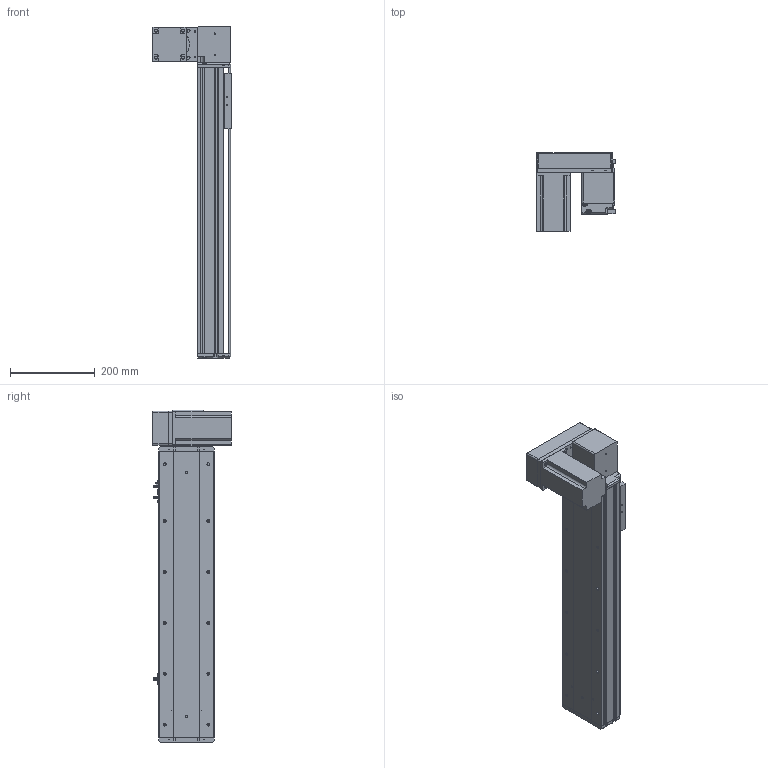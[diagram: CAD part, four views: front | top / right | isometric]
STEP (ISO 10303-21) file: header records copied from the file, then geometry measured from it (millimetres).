
FILE_DESCRIPTION (( 'STEP AP214' ), '1' );
FILE_NAME ('KSD130B-S450-MRD-CM .STEP', '2019-11-15T08:24:11', ( '微软用户' ), ( '微软中国' ), 'SwSTEP 2.0', 'SolidWorks 2014', '' );
FILE_SCHEMA (( 'AUTOMOTIVE_DESIGN' ));
Length unit declared in the file: millimetre
Products named in the file (12): 130宽模组保护罩上下左右折-同步带; 台达ECMA－C20807AS伺服电机; 130宽模组马达安装板连板上下折丝杆同步带; 覜茼え100遵圉猾敕; U倰嫖萇EEㄜSX672; 130宽盖板半封闭同步带-450行程; 130宽马达安装板同步带右-改镜向_默认<按加工>; 130宽马达安装板同步带半封闭; 130宽同步带安装座半封闭; 130宽端盖同步带半封闭; 130宽底板半封闭同步带-450行程; KSD130B-S450-MRD-CM 
Assembly tree (13 placements, depth 2):
  KSD130B-S450-MRD-CM 
    130宽底板半封闭同步带-450行程
    130宽端盖同步带半封闭
    130宽同步带安装座半封闭
    130宽马达安装板同步带半封闭
    130宽马达安装板同步带右-改镜向_默认<按加工>
    130宽盖板半封闭同步带-450行程
    U倰嫖萇EEㄜSX672  x3
    覜茼え100遵圉猾敕
    130宽模组马达安装板连板上下折丝杆同步带
    台达ECMA－C20807AS伺服电机
    130宽模组保护罩上下左右折-同步带
Bounding box: 186 x 184.8 x 783 mm (x, y, z)
Volume: 3482446.1 mm3; surface area: 901185.5 mm2
Topology: 14 solids, 14 shells, 1397 faces, 3925 edges, 2521 vertices
Faces by surface type: cylinder 652, plane 606, cone 139
Entity records: 44527 total; most frequent: CARTESIAN_POINT 7930, DIRECTION 6847, ORIENTED_EDGE 6558, EDGE_CURVE 3279, AXIS2_PLACEMENT_3D 2478, VERTEX_POINT 2145, VECTOR 1891, LINE 1891
